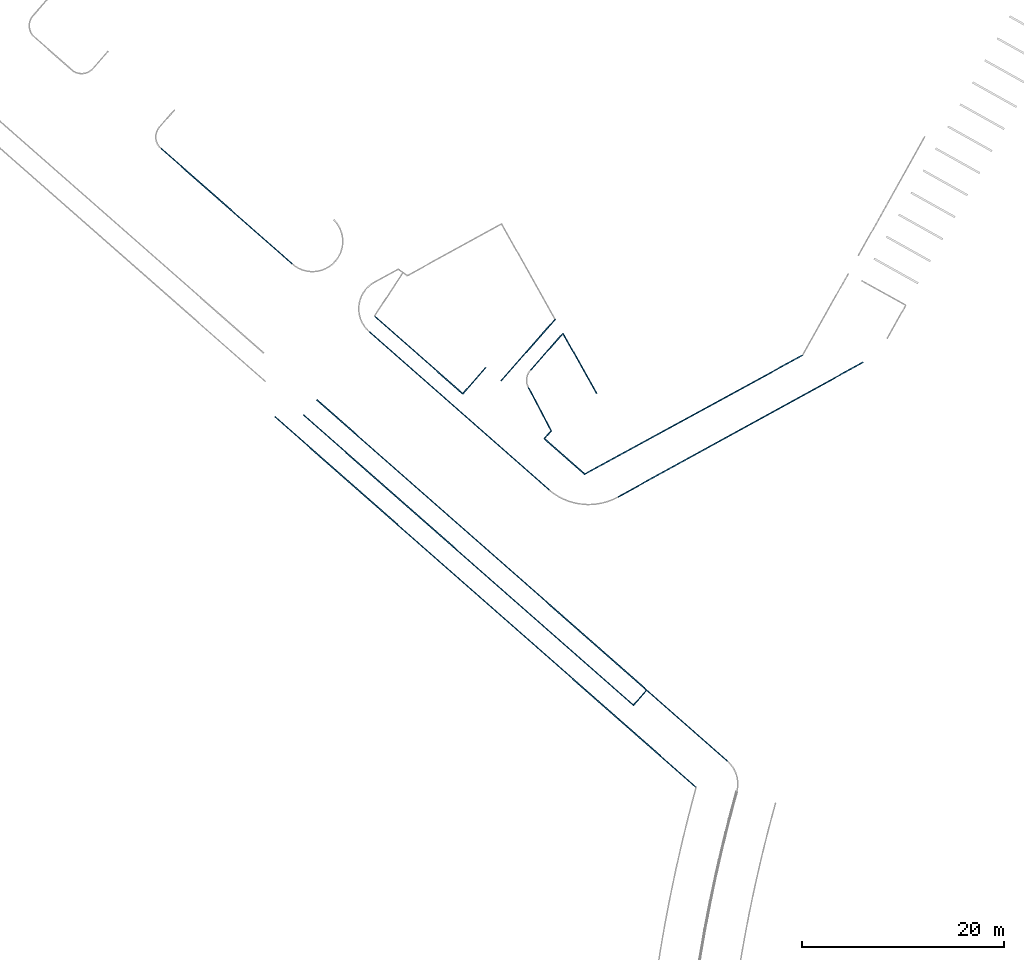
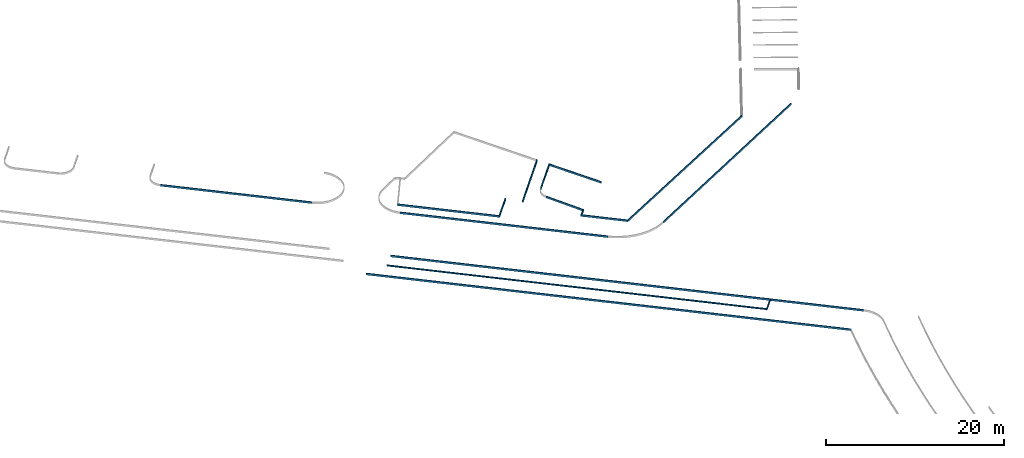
# One storey, part 5 of 24: 16 beams.
"""IFC2X3 building model written with IfcOpenShell, lengths in millimetres."""

from ifc_helpers import new_model, entity, si_unit, converted_unit, derived_unit, direction, frame, frame_2d, origin, origin_2d_with_axis, place, context, subcontext, project, spatial, polyline, rectangle, outline, extrude, material, type_object, element, save


model = new_model("IFC2X3")

# Units and contexts
model_context = context("Model", 3, precision=0.01, world=origin(), true_north=direction((6.123031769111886e-17, 1.0)))
body_context = subcontext(model_context, "Body", "Model", "MODEL_VIEW")
ifc_project = project(units=[si_unit("LENGTHUNIT", "METRE", prefix="MILLI"), si_unit("AREAUNIT", "SQUARE_METRE"), si_unit("VOLUMEUNIT", "CUBIC_METRE"), converted_unit("PLANEANGLEUNIT", "DEGREE", entity("IfcRatioMeasure", 0.017453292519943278), si_unit("PLANEANGLEUNIT", "RADIAN"), dimensions=[0, 0, 0, 0, 0, 0, 0]), si_unit("MASSUNIT", "GRAM", prefix="KILO"), derived_unit("MASSDENSITYUNIT", [(si_unit("MASSUNIT", "GRAM", prefix="KILO"), 1), (si_unit("LENGTHUNIT", "METRE"), -3)]), derived_unit("MOMENTOFINERTIAUNIT", [(si_unit("LENGTHUNIT", "METRE"), 4)]), si_unit("TIMEUNIT", "SECOND"), si_unit("FREQUENCYUNIT", "HERTZ"), si_unit("THERMODYNAMICTEMPERATUREUNIT", "DEGREE_CELSIUS"), derived_unit("THERMALTRANSMITTANCEUNIT", [(si_unit("MASSUNIT", "GRAM", prefix="KILO"), 1), (si_unit("THERMODYNAMICTEMPERATUREUNIT", "KELVIN"), -1), (si_unit("TIMEUNIT", "SECOND"), -3)]), derived_unit("THERMALCONDUCTANCEUNIT", [(si_unit("MASSUNIT", "GRAM", prefix="KILO"), 1), (si_unit("LENGTHUNIT", "METRE"), 1), (si_unit("THERMODYNAMICTEMPERATUREUNIT", "KELVIN"), -1), (si_unit("TIMEUNIT", "SECOND"), -3)]), derived_unit("VOLUMETRICFLOWRATEUNIT", [(si_unit("LENGTHUNIT", "METRE"), 3), (si_unit("TIMEUNIT", "SECOND"), -1)]), derived_unit("MASSFLOWRATEUNIT", [(si_unit("MASSUNIT", "GRAM", prefix="KILO"), 1), (si_unit("TIMEUNIT", "SECOND"), -1)]), derived_unit("ROTATIONALFREQUENCYUNIT", [(si_unit("TIMEUNIT", "SECOND"), -1)]), si_unit("ELECTRICCURRENTUNIT", "AMPERE"), si_unit("ELECTRICVOLTAGEUNIT", "VOLT"), si_unit("POWERUNIT", "WATT"), converted_unit("FORCEUNIT", "KIP", entity("IfcRatioMeasure", 2.088543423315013e-05), si_unit("FORCEUNIT", "NEWTON"), dimensions=[1, 1, -2, 0, 0, 0, 0]), si_unit("ILLUMINANCEUNIT", "LUX"), si_unit("LUMINOUSFLUXUNIT", "LUMEN"), si_unit("LUMINOUSINTENSITYUNIT", "CANDELA"), derived_unit("USERDEFINED", [(si_unit("MASSUNIT", "GRAM", prefix="KILO"), -1), (si_unit("LENGTHUNIT", "METRE"), -2), (si_unit("TIMEUNIT", "SECOND"), 3), (si_unit("LUMINOUSFLUXUNIT", "LUMEN"), 1)]), derived_unit("USERDEFINED", [(si_unit("MASSUNIT", "GRAM", prefix="KILO"), 1), (si_unit("LENGTHUNIT", "METRE"), 3), (si_unit("TIMEUNIT", "SECOND"), -3), (si_unit("ELECTRICCURRENTUNIT", "AMPERE"), -2)]), derived_unit("USERDEFINED", [(si_unit("LENGTHUNIT", "METRE"), 2), (si_unit("TIMEUNIT", "SECOND"), -2)]), derived_unit("SOUNDPOWERUNIT", [(si_unit("MASSUNIT", "GRAM", prefix="KILO"), 1), (si_unit("LENGTHUNIT", "METRE"), 2), (si_unit("TIMEUNIT", "SECOND"), -3)]), derived_unit("SOUNDPRESSUREUNIT", [(si_unit("MASSUNIT", "GRAM", prefix="KILO"), 1), (si_unit("LENGTHUNIT", "METRE"), -1), (si_unit("TIMEUNIT", "SECOND"), -2)]), derived_unit("LINEARVELOCITYUNIT", [(si_unit("LENGTHUNIT", "METRE"), 1), (si_unit("TIMEUNIT", "SECOND"), -1)]), si_unit("PRESSUREUNIT", "PASCAL"), derived_unit("USERDEFINED", [(si_unit("LENGTHUNIT", "METRE"), -2), (si_unit("MASSUNIT", "GRAM", prefix="KILO"), 1), (si_unit("TIMEUNIT", "SECOND"), -2)]), derived_unit("LINEARFORCEUNIT", [(si_unit("MASSUNIT", "GRAM", prefix="KILO"), 1), (si_unit("LENGTHUNIT", "METRE"), 1), (si_unit("TIMEUNIT", "SECOND"), -2), (si_unit("LENGTHUNIT", "METRE"), -1)]), derived_unit("PLANARFORCEUNIT", [(si_unit("MASSUNIT", "GRAM", prefix="KILO"), 1), (si_unit("LENGTHUNIT", "METRE"), 1), (si_unit("TIMEUNIT", "SECOND"), -2), (si_unit("LENGTHUNIT", "METRE"), -2)]), derived_unit("SPECIFICHEATCAPACITYUNIT", [(si_unit("LENGTHUNIT", "METRE"), 2), (si_unit("TIMEUNIT", "SECOND"), -2), (si_unit("THERMODYNAMICTEMPERATUREUNIT", "KELVIN"), -1)]), derived_unit("VAPORPERMEABILITYUNIT", [(si_unit("TIMEUNIT", "SECOND"), 1), (si_unit("LENGTHUNIT", "METRE"), -1)]), derived_unit("DYNAMICVISCOSITYUNIT", [(si_unit("MASSUNIT", "GRAM", prefix="KILO"), 1), (si_unit("LENGTHUNIT", "METRE"), -1), (si_unit("TIMEUNIT", "SECOND"), -1)]), derived_unit("THERMALEXPANSIONCOEFFICIENTUNIT", [(si_unit("THERMODYNAMICTEMPERATUREUNIT", "KELVIN"), -1)])], contexts=[model_context])

# Site, building, storey
site_placement = place(None, frame((0.0, 0.0, 0.0), z_axis=(0.0, 0.0, 1.0), x_axis=(0.8191520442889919, 0.5735764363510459, 0.0)))
site = spatial("IfcSite", under=ifc_project, at=site_placement, Name="Default", CompositionType="ELEMENT")
building_placement = place(site_placement, origin())
building = spatial("IfcBuilding", under=site, at=building_placement, CompositionType="ELEMENT")
storey_placement = place(building_placement, frame((0.0, 0.0, -1150.0)))
storey = spatial("IfcBuildingStorey", under=building, at=storey_placement, Name="6.EG KH -1.15", CompositionType="ELEMENT", Elevation=-1150.0000000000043)

# Beams
ifc_material_1 = material(Name="Paint-01")
beam_type_1 = type_object("IfcBeamType", Name="Beam-141 266112:Beam-141 266112", PredefinedType="NOTDEFINED")
beam_1_placement = place(storey_placement, origin())
element("IfcBeam", 1, at=beam_1_placement, inside=storey, type_object=beam_type_1, material=ifc_material_1, Name="Beam-141", ObjectType="Beam-141 266112:Beam-141 266112", context=body_context, shape_type="SweptSolid", body=[
    extrude(outline(polyline([(-12299.6098065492, -125.0), (12295.950217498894, -125.0), (12299.609806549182, 125.0), (-12295.950217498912, 125.0), (-12299.6098065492, -125.0)])), frame((-90229.96351994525, 150851.7230721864, 864.9866081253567), z_axis=(0.110826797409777, 0.9938397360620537, 0.0), x_axis=(-0.9937332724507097, 0.11081492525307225, 0.01463678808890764)), (0.0, 0.0, 1.0), 99.9999999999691),
])
ifc_material_2 = material(Name="Paveta_bordur")
beam_type_2 = type_object("IfcBeamType", Name="Beam-141 266079:Beam-141 266079", PredefinedType="NOTDEFINED")
beam_2_placement = place(storey_placement, origin())
element("IfcBeam", 2, at=beam_2_placement, inside=storey, type_object=beam_type_2, material=ifc_material_2, Name="Beam-141", ObjectType="Beam-141 266079:Beam-141 266079", context=body_context, shape_type="SweptSolid", body=[
    extrude(rectangle(XDim=250.00000000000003, YDim=99.99999999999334, at=frame_2d((1.0459189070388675e-11, 0.0), x_axis=(0.0, 1.0))), frame((-102445.13535530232, 152264.1926318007, 1035.0), z_axis=(-0.23611027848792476, 0.971726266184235, 0.0), x_axis=(0.971726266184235, 0.23611027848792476, 0.0)), (0.0, 0.0, 1.0), 5331.779364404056),
])
beam_type_3 = type_object("IfcBeamType", Name="Beam-141 238106:Beam-141 238106", PredefinedType="NOTDEFINED")
beam_3_placement = place(storey_placement, origin())
element("IfcBeam", 3, at=beam_3_placement, inside=storey, type_object=beam_type_3, material=ifc_material_1, Name="Beam-141", ObjectType="Beam-141 238106:Beam-141 238106", context=body_context, shape_type="SweptSolid", body=[
    extrude(outline(polyline([(-13867.69021562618, -125.0), (13864.53479014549, -125.0), (13867.69021562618, 125.0), (-13864.534790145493, 125.0), (-13867.69021562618, -125.0)])), frame((-87285.47992655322, 146978.33368470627, 869.9900436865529), z_axis=(0.10824884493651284, 0.9941238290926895, 0.0), x_axis=(0.9940446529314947, -0.10824022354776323, -0.012620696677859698)), (0.0, 0.0, 1.0), 99.99999999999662),
])
beam_type_4 = type_object("IfcBeamType", Name="Beam-136 237970:Beam-136 237970", PredefinedType="NOTDEFINED")
beam_4_placement = place(storey_placement, origin())
element("IfcBeam", 4, at=beam_4_placement, inside=storey, type_object=beam_type_4, material=ifc_material_2, Name="Beam-136", ObjectType="Beam-136 237970:Beam-136 237970", context=body_context, shape_type="SweptSolid", body=[
    extrude(rectangle(XDim=150.0, YDim=100.00000000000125, at=frame_2d((0.0, -2.049915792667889e-12), x_axis=(1.0, 0.0))), frame((-111625.6146897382, 130752.689718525, 1085.0), z_axis=(0.9717262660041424, 0.23611027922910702, 0.0), x_axis=(0.0, 0.0, -1.0)), (0.0, 0.0, 1.0), 2000.0000029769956),
])
beam_type_5 = type_object("IfcBeamType", Name="Beam-136 237952:Beam-136 237952", PredefinedType="NOTDEFINED")
beam_5_placement = place(storey_placement, origin())
element("IfcBeam", 5, at=beam_5_placement, inside=storey, type_object=beam_type_5, material=ifc_material_2, Name="Beam-136", ObjectType="Beam-136 237952:Beam-136 237952", context=body_context, shape_type="SweptSolid", body=[
    extrude(rectangle(XDim=250.00000000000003, YDim=100.000000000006, at=origin_2d_with_axis()), frame((-107165.82264733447, 120868.75971061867, 1035.0), z_axis=(-0.2361102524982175, 0.9717262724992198, 0.0), x_axis=(0.0, 0.0, -1.0)), (0.0, 0.0, 1.0), 54192.4490688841),
])
beam_type_6 = type_object("IfcBeamType", Name="Beam-137 237951:Beam-137 237951", PredefinedType="NOTDEFINED")
beam_6_placement = place(storey_placement, origin())
element("IfcBeam", 6, at=beam_6_placement, inside=storey, type_object=beam_type_6, material=ifc_material_2, Name="Beam-137", ObjectType="Beam-137 237951:Beam-137 237951", context=body_context, shape_type="SweptSolid", body=[
    extrude(rectangle(XDim=150.0, YDim=99.99999999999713, at=frame_2d((0.0, 0.0), x_axis=(0.0, 1.0))), frame((-111625.6146897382, 130752.689718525, 1085.0), z_axis=(-0.2361102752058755, 0.971726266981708, 0.0), x_axis=(0.971726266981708, 0.2361102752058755, 0.0)), (0.0, 0.0, 1.0), 43534.97193204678),
])
beam_type_7 = type_object("IfcBeamType", Name="Beam-136 237941:Beam-136 237941", PredefinedType="NOTDEFINED")
beam_7_placement = place(storey_placement, origin())
element("IfcBeam", 7, at=beam_7_placement, inside=storey, type_object=beam_type_7, material=ifc_material_2, Name="Beam-136", ObjectType="Beam-136 237941:Beam-136 237941", context=body_context, shape_type="SweptSolid", body=[
    extrude(rectangle(XDim=250.00000000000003, YDim=99.9999999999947, at=frame_2d((0.0, -1.0459189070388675e-11), x_axis=(1.0, 0.0))), frame((-111200.54489974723, 120532.67068029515, 1035.0), z_axis=(-0.2361102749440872, 0.9717262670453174, 0.0), x_axis=(0.0, 0.0, -1.0)), (0.0, 0.0, 1.0), 55566.39506691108),
])
beam_type_8 = type_object("IfcBeamType", Name="Beam-140 237927:Beam-140 237927", PredefinedType="NOTDEFINED")
beam_8_placement = place(storey_placement, origin())
element("IfcBeam", 8, at=beam_8_placement, inside=storey, type_object=beam_type_8, material=ifc_material_2, Name="Beam-140", ObjectType="Beam-140 237927:Beam-140 237927", context=body_context, shape_type="SweptSolid", body=[
    extrude(rectangle(XDim=250.00000000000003, YDim=99.99999999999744, at=frame_2d((8.416378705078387e-12, 0.0), x_axis=(0.0, 1.0))), frame((-114223.45166097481, 185914.9907949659, 1035.0), z_axis=(-0.23611027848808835, 0.9717262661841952, 0.0), x_axis=(0.9717262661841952, 0.23611027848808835, 0.0)), (0.0, 0.0, 1.0), 17355.62696513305),
])
beam_type_9 = type_object("IfcBeamType", Name="Beam-139 237922:Beam-139 237922", PredefinedType="NOTDEFINED")
beam_9_placement = place(storey_placement, origin())
element("IfcBeam", 9, at=beam_9_placement, inside=storey, type_object=beam_type_9, material=ifc_material_2, Name="Beam-139", ObjectType="Beam-139 237922:Beam-139 237922", context=body_context, shape_type="SweptSolid", body=[
    extrude(rectangle(XDim=250.00000000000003, YDim=99.99999999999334, at=frame_2d((-1.0459189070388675e-11, 0.0), x_axis=(0.0, 1.0))), frame((-106221.6689628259, 152983.1655737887, 1035.0), z_axis=(-0.23611027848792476, 0.971726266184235, 0.0), x_axis=(0.971726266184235, 0.23611027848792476, 0.0)), (0.0, 0.0, 1.0), 23787.406937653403),
])
beam_type_10 = type_object("IfcBeamType", Name="Beam-143 237887:Beam-143 237887", PredefinedType="NOTDEFINED")
beam_10_placement = place(storey_placement, origin())
element("IfcBeam", 10, at=beam_10_placement, inside=storey, type_object=beam_type_10, material=ifc_material_2, Name="Beam-143", ObjectType="Beam-143 237887:Beam-143 237887", context=body_context, shape_type="SweptSolid", body=[
    extrude(rectangle(XDim=250.00000000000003, YDim=100.00000000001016, at=frame_2d((0.0, 2.0463630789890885e-12), x_axis=(1.0, 0.0))), frame((-107772.46830575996, 165718.53852902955, 1035.0), z_axis=(0.9717262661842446, 0.23611027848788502, 0.0), x_axis=(0.0, 0.0, -1.0)), (0.0, 0.0, 1.0), 3443.4377563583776),
])
beam_type_11 = type_object("IfcBeamType", Name="Beam-141 237854:Beam-141 237854", PredefinedType="NOTDEFINED")
beam_11_placement = place(storey_placement, origin())
element("IfcBeam", 11, at=beam_11_placement, inside=storey, type_object=beam_type_11, material=ifc_material_2, Name="Beam-141", ObjectType="Beam-141 237854:Beam-141 237854", context=body_context, shape_type="SweptSolid", body=[
    extrude(rectangle(XDim=250.00000000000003, YDim=99.9999999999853, at=frame_2d((0.0, 0.0), x_axis=(0.0, 1.0))), frame((-103704.0232654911, 157445.222684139, 1035.0), z_axis=(0.9717262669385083, 0.23611027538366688, 0.0), x_axis=(0.23611027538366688, -0.9717262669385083, 0.0)), (0.0, 0.0, 1.0), 1039.583527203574),
])
beam_type_12 = type_object("IfcBeamType", Name="Beam-142 237851:Beam-142 237851", PredefinedType="NOTDEFINED")
beam_12_placement = place(storey_placement, origin())
element("IfcBeam", 12, at=beam_12_placement, inside=storey, type_object=beam_type_12, material=ifc_material_2, Name="Beam-142", ObjectType="Beam-142 237851:Beam-142 237851", context=body_context, shape_type="SweptSolid", body=[
    extrude(rectangle(XDim=250.00000000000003, YDim=100.0000000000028, at=frame_2d((8.597567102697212e-12, 0.0), x_axis=(0.0, 1.0))), frame((-102693.8326454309, 157690.6790370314, 1035.0), z_axis=(0.12406785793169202, 0.9922737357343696, 0.0), x_axis=(0.9922737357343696, -0.12406785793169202, 0.0)), (0.0, 0.0, 1.0), 4869.622389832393),
])
beam_type_13 = type_object("IfcBeamType", Name="Beam-144 237846:Beam-144 237846", PredefinedType="NOTDEFINED")
beam_13_placement = place(storey_placement, origin())
element("IfcBeam", 13, at=beam_13_placement, inside=storey, type_object=beam_type_13, material=ifc_material_2, Name="Beam-144", ObjectType="Beam-144 237846:Beam-144 237846", context=body_context, shape_type="SweptSolid", body=[
    extrude(rectangle(XDim=250.00000000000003, YDim=99.99999999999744, at=frame_2d((-8.416378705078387e-12, 0.0), x_axis=(0.0, 1.0))), frame((-107772.46830576, 165718.5385290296, 1035.0), z_axis=(-0.23611027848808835, 0.9717262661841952, 0.0), x_axis=(0.9717262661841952, 0.23611027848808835, 0.0)), (0.0, 0.0, 1.0), 11648.613235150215),
])
beam_type_14 = type_object("IfcBeamType", Name="Beam-147 237817:Beam-147 237817", PredefinedType="NOTDEFINED")
beam_14_placement = place(storey_placement, origin())
element("IfcBeam", 14, at=beam_14_placement, inside=storey, type_object=beam_type_14, material=ifc_material_2, Name="Beam-147", ObjectType="Beam-147 237817:Beam-147 237817", context=body_context, shape_type="SweptSolid", body=[
    extrude(rectangle(XDim=250.00000000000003, YDim=100.00000000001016, at=frame_2d((0.0, 2.0463630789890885e-12), x_axis=(1.0, 0.0))), frame((-103954.16883496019, 164588.11704427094, 1035.0), z_axis=(0.9717262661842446, 0.23611027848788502, 0.0), x_axis=(0.0, 0.0, -1.0)), (0.0, 0.0, 1.0), 8129.934798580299),
])
beam_type_15 = type_object("IfcBeamType", Name="Beam-142 237812:Beam-142 237812", PredefinedType="NOTDEFINED")
beam_15_placement = place(storey_placement, origin())
element("IfcBeam", 15, at=beam_15_placement, inside=storey, type_object=beam_type_15, material=ifc_material_2, Name="Beam-142", ObjectType="Beam-142 237812:Beam-142 237812", context=body_context, shape_type="SweptSolid", body=[
    extrude(rectangle(XDim=250.00000000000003, YDim=100.00000000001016, at=frame_2d((-2.0463630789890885e-12, 0.0), x_axis=(0.0, 1.0))), frame((-100958.1391518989, 163772.44845039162, 1035.0), z_axis=(0.9717262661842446, 0.23611027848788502, 0.0), x_axis=(0.23611027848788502, -0.9717262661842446, 0.0)), (0.0, 0.0, 1.0), 4883.895854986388),
])
beam_type_16 = type_object("IfcBeamType", Name="Beam-143 237790:Beam-143 237790", PredefinedType="NOTDEFINED")
beam_16_placement = place(storey_placement, origin())
element("IfcBeam", 16, at=beam_16_placement, inside=storey, type_object=beam_type_16, material=ifc_material_2, Name="Beam-143", ObjectType="Beam-143 237790:Beam-143 237790", context=body_context, shape_type="SweptSolid", body=[
    extrude(rectangle(XDim=250.00000000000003, YDim=99.9999999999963, at=frame_2d((0.0, 8.622436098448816e-12), x_axis=(1.0, 0.0))), frame((-96891.61053776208, 158133.7372857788, 1035.0), z_axis=(0.09951769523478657, 0.9950357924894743, 0.0), x_axis=(0.0, 0.0, -1.0)), (0.0, 0.0, 1.0), 6825.733532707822),
])

save(model, "model.ifc")
